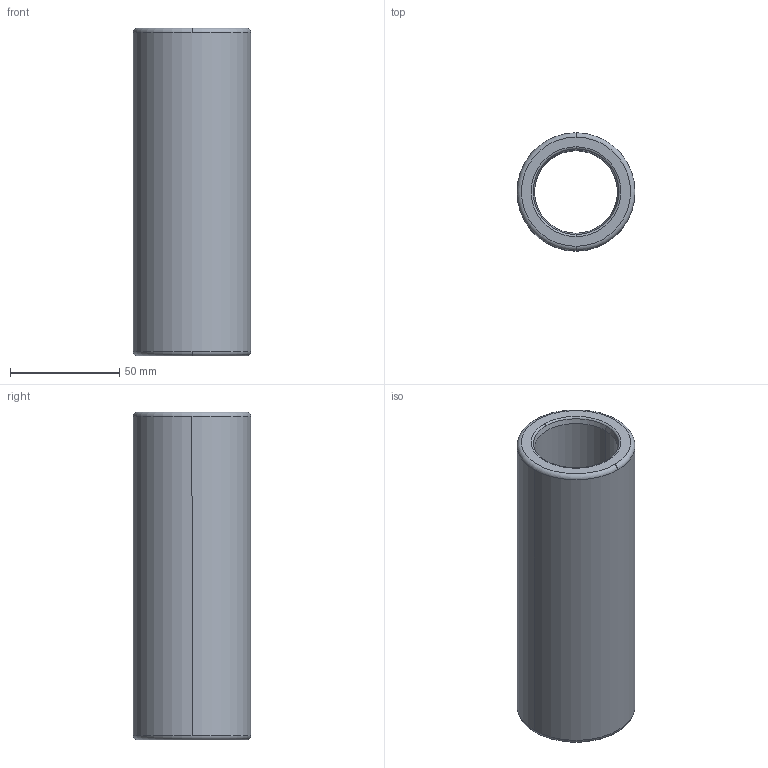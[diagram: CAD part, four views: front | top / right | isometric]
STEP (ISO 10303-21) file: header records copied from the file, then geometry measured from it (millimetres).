
FILE_DESCRIPTION((''),'2;1');
FILE_NAME('B30_030_150.stp','2009-01-12T10:26:30',(''),(''),'Mechanical Desktop 2009','Mechanical Desktop 2009',', , ');
FILE_SCHEMA(('CONFIG_CONTROL_DESIGN'));
Length unit declared in the file: millimetre
Products named in the file (2): Product; blmdl1
Assembly tree (1 placements, depth 2):
  Product
    blmdl1
Bounding box: 53.99 x 53.99 x 150 mm (x, y, z)
Volume: 172937.4 mm3; surface area: 45138.6 mm2
Topology: 1 solids, 1 shells, 18 faces, 48 edges, 32 vertices
Faces by surface type: torus 8, cylinder 4, cone 4, plane 2
Entity records: 705 total; most frequent: DIRECTION 128, CARTESIAN_POINT 100, ORIENTED_EDGE 96, AXIS2_PLACEMENT_3D 60, EDGE_CURVE 48, CIRCLE 40, VERTEX_POINT 32, EDGE_LOOP 20
